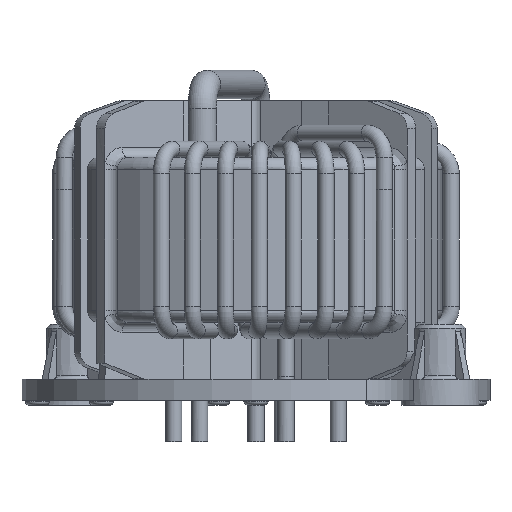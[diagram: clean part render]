
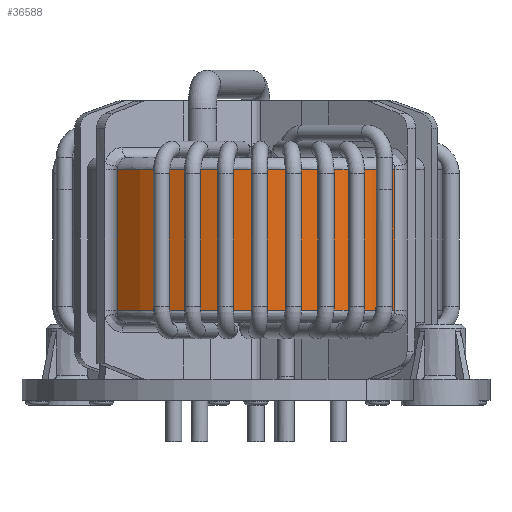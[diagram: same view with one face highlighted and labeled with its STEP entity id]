
A CAD part, left-side view. The second image highlights one B-rep face of the part: STEP entity #36588.
In plain terms, the highlighted cylindrical face has radius 23 mm (diameter 46 mm), a partial arc.
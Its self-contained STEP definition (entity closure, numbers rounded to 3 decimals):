
#7058=CARTESIAN_POINT('',(-15.335,-17.142,1.5));
#7059=VERTEX_POINT('',#7058);
#7067=CARTESIAN_POINT('',(-15.335,17.142,1.5));
#7068=VERTEX_POINT('',#7067);
#7069=CARTESIAN_POINT('',(0.,0.,1.5));
#7070=DIRECTION('',(0.0,0.0,-1.0));
#7071=DIRECTION('',(-1.0,0.0,0.0));
#7072=AXIS2_PLACEMENT_3D('',#7069,#7070,#7071);
#7073=CIRCLE('',#7072,23.);
#7074=EDGE_CURVE('',#7059,#7068,#7073,.T.);
#32916=CARTESIAN_POINT('',(-15.335,-17.142,18.9));
#32917=VERTEX_POINT('',#32916);
#32995=CARTESIAN_POINT('',(-15.335,-17.142,18.9));
#32996=DIRECTION('',(0.0,0.0,-1.0));
#32997=VECTOR('',#32996,17.4);
#32998=LINE('',#32995,#32997);
#32999=EDGE_CURVE('',#32917,#7059,#32998,.T.);
#33987=CARTESIAN_POINT('',(-15.335,17.142,18.9));
#33988=VERTEX_POINT('',#33987);
#34019=CARTESIAN_POINT('',(-15.335,17.142,1.5));
#34020=DIRECTION('',(0.0,0.0,1.0));
#34021=VECTOR('',#34020,17.4);
#34022=LINE('',#34019,#34021);
#34023=EDGE_CURVE('',#7068,#33988,#34022,.T.);
#34524=CARTESIAN_POINT('',(0.,0.,18.9));
#34525=DIRECTION('',(0.0,0.0,1.0));
#34526=DIRECTION('',(-1.0,0.0,0.0));
#34527=AXIS2_PLACEMENT_3D('',#34524,#34525,#34526);
#34528=CIRCLE('',#34527,23.);
#34529=EDGE_CURVE('',#33988,#32917,#34528,.T.);
#36577=CARTESIAN_POINT('',(0.0,0.0,10.2));
#36578=DIRECTION('',(0.,0.,1.0));
#36579=DIRECTION('',(-0.5,-0.866,0.));
#36580=AXIS2_PLACEMENT_3D('',#36577,#36578,#36579);
#36581=CYLINDRICAL_SURFACE('',#36580,23.);
#36582=ORIENTED_EDGE('',*,*,#32999,.F.);
#36583=ORIENTED_EDGE('',*,*,#34529,.F.);
#36584=ORIENTED_EDGE('',*,*,#34023,.F.);
#36585=ORIENTED_EDGE('',*,*,#7074,.F.);
#36586=EDGE_LOOP('',(#36582,#36583,#36584,#36585));
#36587=FACE_OUTER_BOUND('',#36586,.T.);
#36588=ADVANCED_FACE('',(#36587),#36581,.T.);
